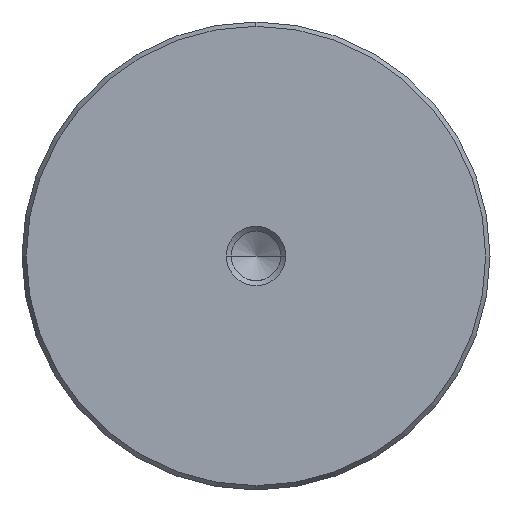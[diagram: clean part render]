
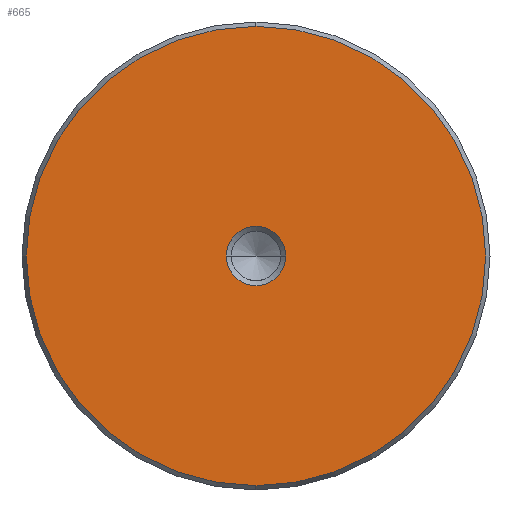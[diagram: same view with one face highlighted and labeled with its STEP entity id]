
A CAD part, left-side view. The second image highlights one B-rep face of the part: STEP entity #665.
In plain terms, the highlighted planar face has unit normal (-1, 0, 0).
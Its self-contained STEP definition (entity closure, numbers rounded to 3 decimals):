
#579=CARTESIAN_POINT('Vertex',(0.,0.,-30.923)) ;
#582=CARTESIAN_POINT('Axis2P3D Location',(0.,0.,0.)) ;
#586=CARTESIAN_POINT('Vertex',(0.,30.923,0.)) ;
#589=CARTESIAN_POINT('Axis2P3D Location',(0.,0.,0.)) ;
#593=CARTESIAN_POINT('Vertex',(0.,0.,30.923)) ;
#615=CARTESIAN_POINT('Axis2P3D Location',(0.,0.,0.)) ;
#619=CARTESIAN_POINT('Vertex',(0.,-30.923,0.)) ;
#622=CARTESIAN_POINT('Axis2P3D Location',(0.,0.,0.)) ;
#636=CARTESIAN_POINT('Axis2P3D Location',(0.,0.,0.)) ;
#647=CARTESIAN_POINT('Axis2P3D Location',(0.,0.,0.)) ;
#651=CARTESIAN_POINT('Vertex',(0.,4.,0.)) ;
#653=CARTESIAN_POINT('Vertex',(0.,-4.,0.)) ;
#656=CARTESIAN_POINT('Axis2P3D Location',(0.,0.,0.)) ;
#583=DIRECTION('Axis2P3D Direction',(1.,0.,-0.)) ;
#590=DIRECTION('Axis2P3D Direction',(1.,0.,-0.)) ;
#616=DIRECTION('Axis2P3D Direction',(1.,0.,-0.)) ;
#623=DIRECTION('Axis2P3D Direction',(1.,0.,-0.)) ;
#637=DIRECTION('Axis2P3D Direction',(1.,0.,-0.)) ;
#638=DIRECTION('Axis2P3D XDirection',(-0.,0.,-1.)) ;
#648=DIRECTION('Axis2P3D Direction',(1.,0.,-0.)) ;
#657=DIRECTION('Axis2P3D Direction',(1.,0.,-0.)) ;
#584=AXIS2_PLACEMENT_3D('Circle Axis2P3D',#582,#583,$) ;
#591=AXIS2_PLACEMENT_3D('Circle Axis2P3D',#589,#590,$) ;
#617=AXIS2_PLACEMENT_3D('Circle Axis2P3D',#615,#616,$) ;
#624=AXIS2_PLACEMENT_3D('Circle Axis2P3D',#622,#623,$) ;
#639=AXIS2_PLACEMENT_3D('Plane Axis2P3D',#636,#637,#638) ;
#649=AXIS2_PLACEMENT_3D('Circle Axis2P3D',#647,#648,$) ;
#658=AXIS2_PLACEMENT_3D('Circle Axis2P3D',#656,#657,$) ;
#642=ORIENTED_EDGE('',*,*,#588,.F.) ;
#643=ORIENTED_EDGE('',*,*,#626,.F.) ;
#644=ORIENTED_EDGE('',*,*,#621,.F.) ;
#645=ORIENTED_EDGE('',*,*,#595,.F.) ;
#662=ORIENTED_EDGE('',*,*,#655,.T.) ;
#663=ORIENTED_EDGE('',*,*,#660,.T.) ;
#664=FACE_BOUND('',#661,.T.) ;
#665=ADVANCED_FACE('720-63x400',(#646,#664),#640,.F.) ;
#585=CIRCLE('generated circle',#584,30.923) ;
#592=CIRCLE('generated circle',#591,30.923) ;
#618=CIRCLE('generated circle',#617,30.923) ;
#625=CIRCLE('generated circle',#624,30.923) ;
#650=CIRCLE('generated circle',#649,4.) ;
#659=CIRCLE('generated circle',#658,4.) ;
#588=EDGE_CURVE('',#580,#587,#585,.T.) ;
#595=EDGE_CURVE('',#587,#594,#592,.T.) ;
#621=EDGE_CURVE('',#594,#620,#618,.T.) ;
#626=EDGE_CURVE('',#620,#580,#625,.T.) ;
#655=EDGE_CURVE('',#652,#654,#650,.T.) ;
#660=EDGE_CURVE('',#654,#652,#659,.T.) ;
#641=EDGE_LOOP('',(#642,#643,#644,#645)) ;
#661=EDGE_LOOP('',(#662,#663)) ;
#646=FACE_OUTER_BOUND('',#641,.T.) ;
#640=PLANE('Plane',#639) ;
#580=VERTEX_POINT('',#579) ;
#587=VERTEX_POINT('',#586) ;
#594=VERTEX_POINT('',#593) ;
#620=VERTEX_POINT('',#619) ;
#652=VERTEX_POINT('',#651) ;
#654=VERTEX_POINT('',#653) ;
